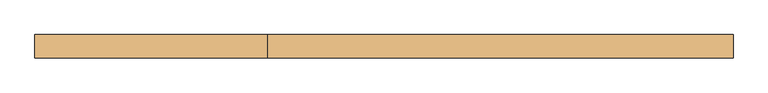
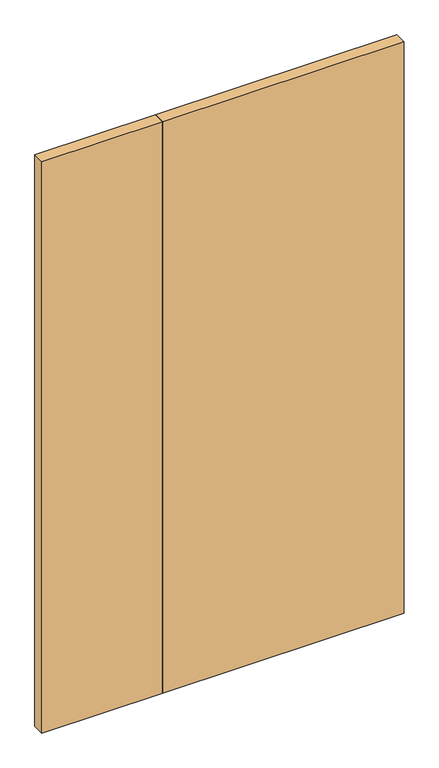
"""IFC4 building model written with IfcOpenShell, lengths in millimetres: door geometry, 営_親子扉 : SD10 1110*2685."""

from ifc_helpers import new_model, si_unit, origin, origin_with_axes, place, context, project, spatial, polyline, outline, extrude, source, transform, mapped, element, save


def door_eb4554f3(model_context):
    return source(origin(), model_context, "Body", "SweptSolid", [
        extrude(outline(polyline([(-200.0, 30.0), (-200.0, 70.0), (600.0, 70.0), (600.0, 30.0), (-200.0, 30.0)])), origin_with_axes(), (0.0, 0.0, 1.0), 2000.0),
        extrude(outline(polyline([(-200.0, 30.0), (-600.0, 30.0), (-600.0, 70.0), (-200.0, 70.0), (-200.0, 30.0)])), origin_with_axes(), (0.0, 0.0, 1.0), 2000.0),
    ])


if __name__ == "__main__":
    model = new_model("IFC4")
    model_context = context("Model", 3, world=origin())
    ifc_project = project(units=[si_unit("LENGTHUNIT", "METRE", prefix="MILLI")], contexts=[model_context])
    site = spatial("IfcSite", under=ifc_project)
    building = spatial("IfcBuilding", under=site)
    placement = place(None, origin())
    door_shape = door_eb4554f3(model_context)
    element("IfcDoor", 1, ObjectType="営_親子扉 : SD10 1110*2685", at=placement, inside=building, context=model_context, shape_type="MappedRepresentation", body=[
        mapped(door_shape, transform((0.0, 0.0, 0.0), x_axis=(1.0, 0.0, 0.0), y_axis=(0.0, 1.0, 0.0), z_axis=(0.0, 0.0, 1.0))),
    ])
    save(model, "model.ifc")
